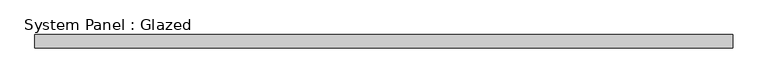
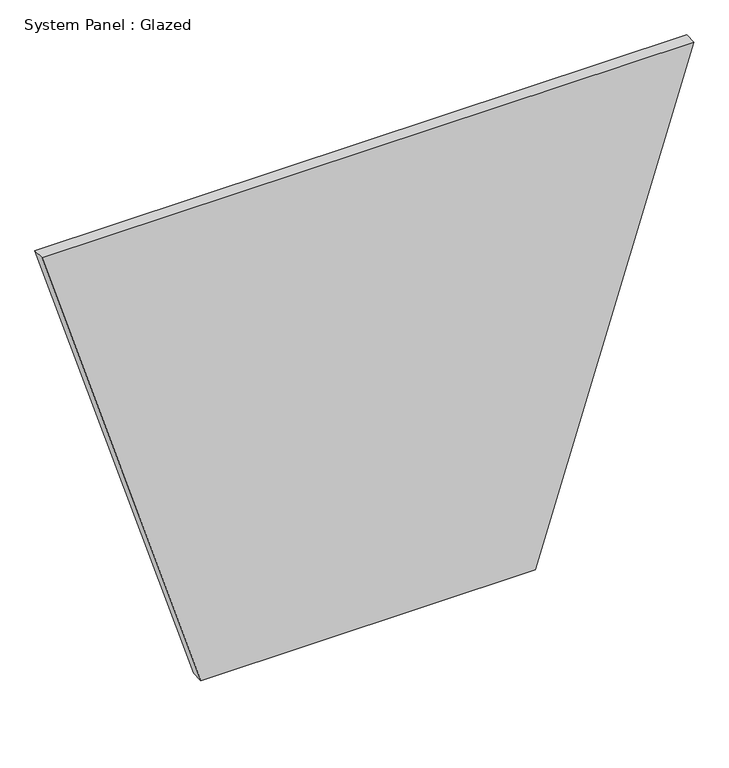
"""IFC4 building model written with IfcOpenShell, lengths in millimetres: plate geometry, System Panel : Glazed."""

from ifc_helpers import new_model, si_unit, frame, origin, place, context, project, spatial, polyline, outline, extrude, source, transform, mapped, element, save


def system_panel_glazed_39271ac9(model_context):
    return source(origin(), model_context, "Body", "SweptSolid", [
        extrude(outline(polyline([(0.0, -338.4921112), (0.0, 338.4921112), (1017.2864256, 659.7249993), (1017.2864256, -659.7249993), (0.0, -338.4921112)])), frame((0.0, -44.45, 0.0), z_axis=(0.0, 1.0, 0.0), x_axis=(0.0, 0.0, 1.0)), (0.0, 0.0, 1.0), 25.4),
    ])


if __name__ == "__main__":
    model = new_model("IFC4")
    model_context = context("Model", 3, world=origin())
    ifc_project = project(units=[si_unit("LENGTHUNIT", "METRE", prefix="MILLI")], contexts=[model_context])
    site = spatial("IfcSite", under=ifc_project)
    building = spatial("IfcBuilding", under=site)
    placement = place(None, origin())
    system_panel_glazed_shape = system_panel_glazed_39271ac9(model_context)
    element("IfcPlate", 1, ObjectType="System Panel : Glazed", at=placement, inside=building, context=model_context, shape_type="MappedRepresentation", body=[
        mapped(system_panel_glazed_shape, transform((0.0, 0.0, 0.0), x_axis=(1.0, 0.0, 0.0), y_axis=(0.0, 1.0, 0.0), z_axis=(0.0, 0.0, 1.0))),
    ])
    save(model, "model.ifc")
